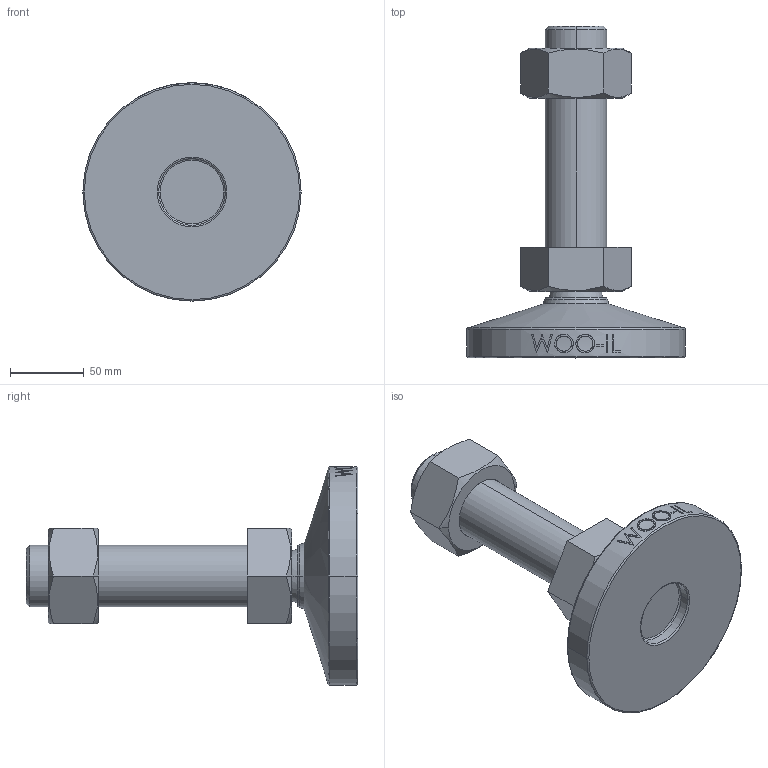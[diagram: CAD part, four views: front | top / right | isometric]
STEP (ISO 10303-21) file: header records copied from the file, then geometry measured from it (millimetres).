
FILE_DESCRIPTION (( 'STEP AP214' ), '1' );
FILE_NAME ('MFN148-M42-150.step', '2021-01-19T06:27:33', ( '' ), ( '' ), 'SwSTEP 2.0', 'SolidWorks 2019', '' );
FILE_SCHEMA (( 'AUTOMOTIVE_DESIGN' ));
Length unit declared in the file: millimetre
Products named in the file (2): MFN148-M42-150
Bounding box: 148 x 225 x 148 mm (x, y, z)
Volume: 866095 mm3; surface area: 93641.7 mm2
Topology: 2 solids, 2 shells, 107 faces, 247 edges, 156 vertices
Faces by surface type: plane 47, cone 18, cylinder 16, bspline 16, torus 8, sphere 2
Entity records: 4761 total; most frequent: CARTESIAN_POINT 2394, ORIENTED_EDGE 494, DIRECTION 447, EDGE_CURVE 247, AXIS2_PLACEMENT_3D 173, VERTEX_POINT 156, EDGE_LOOP 121, ADVANCED_FACE 107
